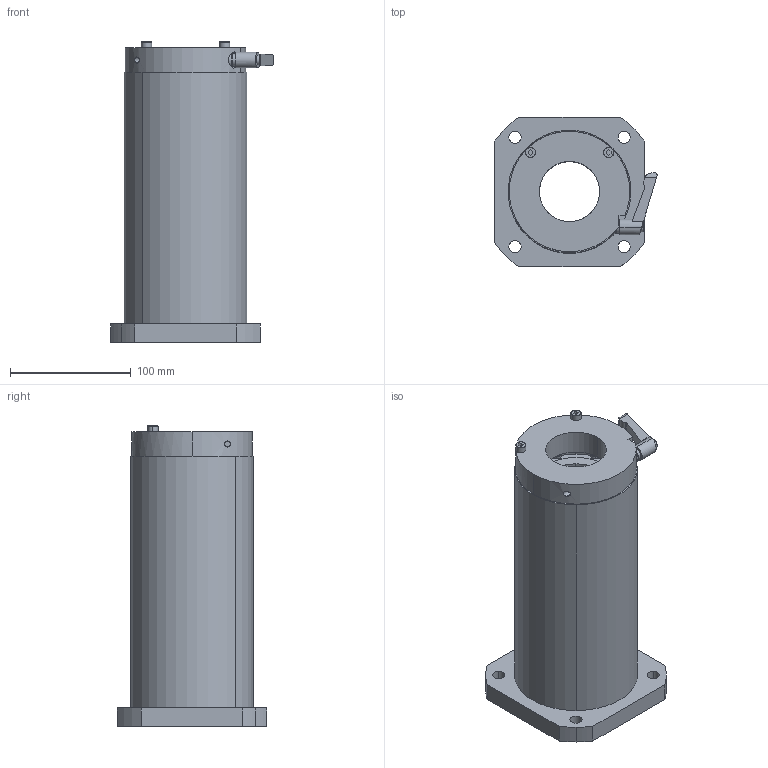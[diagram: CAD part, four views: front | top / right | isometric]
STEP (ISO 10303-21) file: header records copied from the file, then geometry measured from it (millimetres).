
FILE_DESCRIPTION (( 'STEP AP214' ), '1' );
FILE_NAME ('LFWK50-CS.STEP', '2023-06-27T02:02:48', ( '' ), ( '' ), 'SwSTEP 2.0', 'SolidWorks 2019', '' );
FILE_SCHEMA (( 'AUTOMOTIVE_DESIGN' ));
Length unit declared in the file: millimetre
Products named in the file (3): LFWK50; “ÁSCK5020SS-S5.5; LFWK50-CS
Assembly tree (2 placements, depth 2):
  LFWK50-CS
    LFWK50
    “ÁSCK5020SS-S5.5
Bounding box: 134.7 x 124 x 249 mm (x, y, z)
Volume: 1530411.7 mm3; surface area: 183764.9 mm2
Topology: 4 solids, 9 shells, 191 faces, 462 edges, 298 vertices
Faces by surface type: cylinder 80, plane 58, bspline 34, cone 11, torus 8
Entity records: 8248 total; most frequent: CARTESIAN_POINT 1782, DIRECTION 973, ORIENTED_EDGE 924, EDGE_CURVE 462, AXIS2_PLACEMENT_3D 391, VERTEX_POINT 298, EDGE_LOOP 232, CIRCLE 229
